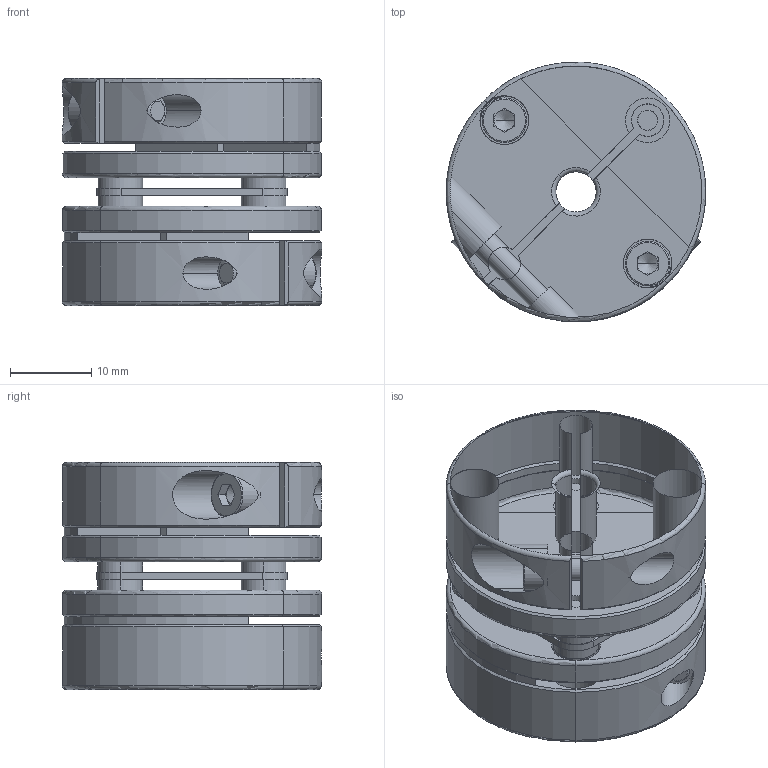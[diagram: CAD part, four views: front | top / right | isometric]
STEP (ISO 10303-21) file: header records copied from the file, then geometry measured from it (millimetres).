
FILE_DESCRIPTION (( 'STEP AP203' ), '1' );
FILE_NAME ('DXB-32X28-5-5.STEP', '2023-10-18T08:03:03', ( '' ), ( '' ), 'SwSTEP 2.0', 'SolidWorks 2020', '' );
FILE_SCHEMA (( 'CONFIG_CONTROL_DESIGN' ));
Length unit declared in the file: millimetre
Products named in the file (5): DXB-32X28-5-5; 34ㄛ32臚え郪; 32臚え薊粣ん傷裔; socket head cap screw_iso_ISO 4762 M3 x 6 - 6C; socket head cap screw_iso_ISO 4762 M3 x 10 - 10C
Assembly tree (9 placements, depth 2):
  DXB-32X28-5-5
    34ㄛ32臚え郪
    32臚え薊粣ん傷裔  x2
    socket head cap screw_iso_ISO 4762 M3 x 6 - 6C  x4
    socket head cap screw_iso_ISO 4762 M3 x 10 - 10C  x2
Bounding box: 32 x 31.99 x 28 mm (x, y, z)
Volume: 16645.9 mm3; surface area: 11718.8 mm2
Topology: 9 solids, 9 shells, 372 faces, 870 edges, 526 vertices
Faces by surface type: plane 146, cylinder 144, cone 42, torus 40
Entity records: 6494 total; most frequent: CARTESIAN_POINT 1199, DIRECTION 1071, ORIENTED_EDGE 896, EDGE_CURVE 448, AXIS2_PLACEMENT_3D 436, VERTEX_POINT 280, EDGE_LOOP 238, CIRCLE 231
